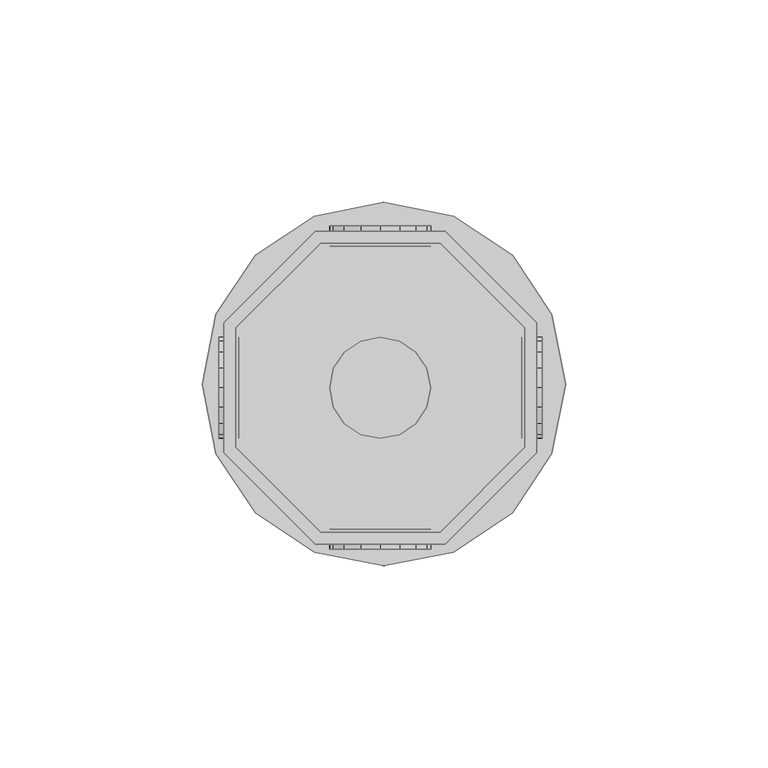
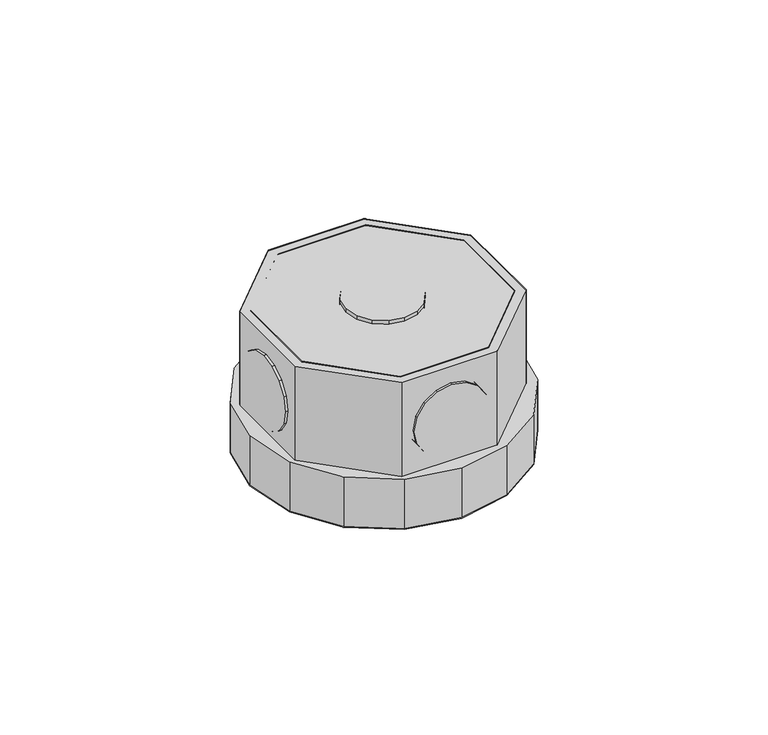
"""IFC4 building model written with IfcOpenShell, lengths in millimetres: light fixture geometry,  213408 :  213408."""

from ifc_helpers import new_model, si_unit, origin, place, context, project, spatial, triangles, source, transform, mapped, element, save


def light_fixture_6a572070(model_context):
    return source(origin(), model_context, "Body", "Tessellation", [
        triangles([(15365.3004913, 16539.5997437, 2924.5999741), (15365.3004913, 16510.0003876, 2975.400071), (15365.3004913, 16510.0003876, 2924.5999741), (15365.3004913, 16539.5997437, 2975.400071), (15439.7994324, 16540.7996704, 2924.5999741), (15439.7994324, 16508.7004669, 2975.400071), (15439.7994324, 16508.7004669, 2924.5999741), (15439.7994324, 16540.7996704, 2975.400071), (15386.3003723, 16489.0005066, 2975.400071), (15386.3003723, 16489.0005066, 2924.5999741), (15417.0996552, 16563.4994476, 2924.5999741), (15417.0996552, 16563.4994476, 2975.400071), (15415.8997284, 16489.0005066, 2975.400071), (15415.8997284, 16489.0005066, 2924.5999741), (15385.0004517, 16563.4994476, 2924.5999741), (15385.0004517, 16563.4994476, 2975.400071), (15436.7996155, 16510.0003876, 2975.400071), (15436.7996155, 16510.0003876, 2924.5999741), (15362.2995117, 16540.7996704, 2924.5999741), (15362.2995117, 16540.7996704, 2975.400071), (15436.7996155, 16539.5997437, 2924.5999741), (15436.7996155, 16539.5997437, 2975.400071), (15362.2995117, 16508.7004669, 2975.400071), (15362.2995117, 16508.7004669, 2924.5999741), (15415.8997284, 16560.4996307, 2924.5999741), (15415.8997284, 16560.4996307, 2975.400071), (15385.0004517, 16485.999527, 2975.400071), (15385.0004517, 16485.999527, 2924.5999741), (15417.0996552, 16485.999527, 2975.400071), (15386.3003723, 16560.4996307, 2975.400071), (15386.3003723, 16560.4996307, 2924.5999741), (15417.0996552, 16485.999527, 2924.5999741), (15415.8997284, 16489.0005066, 2972.3999634), (15436.7996155, 16510.0003876, 2972.3999634), (15436.7996155, 16539.5997437, 2972.3999634), (15415.8997284, 16560.4996307, 2972.3999634), (15386.3003723, 16560.4996307, 2972.3999634), (15365.3004913, 16539.5997437, 2972.3999634), (15365.3004913, 16510.0003876, 2972.3999634), (15386.3003723, 16489.0005066, 2972.3999634), (15385.0004517, 16485.999527, 2942.4000504), (15362.2995117, 16508.7004669, 2942.4000504), (15362.2995117, 16540.7996704, 2942.4000504), (15385.0004517, 16563.4994476, 2942.4000504), (15417.0996552, 16563.4994476, 2942.4000504), (15439.7994324, 16540.7996704, 2942.4000504), (15439.7994324, 16508.7004669, 2942.4000504), (15417.0996552, 16485.999527, 2942.4000504), (15443.5003693, 16508.4004852, 2942.4000504), (15419.199527, 16484.0996429, 2942.4000504), (15433.7997986, 16493.8002136, 2942.4000504), (15402.0005768, 16480.6998505, 2942.4000504), (15384.70047, 16484.0996429, 2942.4000504), (15370.1001984, 16493.8002136, 2942.4000504), (15360.3996277, 16508.4004852, 2942.4000504), (15356.9998352, 16525.6994293, 2942.4000504), (15360.3996277, 16542.8995422, 2942.4000504), (15384.70047, 16567.2003845, 2942.4000504), (15370.1001984, 16557.4998138, 2942.4000504), (15447.0001556, 16525.6994293, 2942.4000504), (15443.5003693, 16542.8995422, 2942.4000504), (15433.7997986, 16557.4998138, 2942.4000504), (15419.199527, 16567.2003845, 2942.4000504), (15402.0005768, 16570.7001709, 2942.4000504), (15419.199527, 16484.0996429, 2924.5999741), (15443.5003693, 16508.4004852, 2924.5999741), (15433.7997986, 16493.8002136, 2924.5999741), (15402.0005768, 16480.6998505, 2924.5999741), (15384.70047, 16484.0996429, 2924.5999741), (15370.1001984, 16493.8002136, 2924.5999741), (15360.3996277, 16508.4004852, 2924.5999741), (15356.9998352, 16525.6994293, 2924.5999741), (15360.3996277, 16542.8995422, 2924.5999741), (15384.70047, 16567.2003845, 2924.5999741), (15370.1001984, 16557.4998138, 2924.5999741), (15447.0001556, 16525.6994293, 2924.5999741), (15443.5003693, 16542.8995422, 2924.5999741), (15433.7997986, 16557.4998138, 2924.5999741), (15419.199527, 16567.2003845, 2924.5999741), (15402.0005768, 16570.7001709, 2924.5999741), (15361.099585, 16513.2001923, 2952.6000092), (15361.099585, 16519.9997772, 2945.9001274), (15361.099585, 16515.9000275, 2948.5999626), (15361.099585, 16512.3002472, 2957.4000069), (15361.099585, 16524.7994843, 2944.8998978), (15361.099585, 16513.2001923, 2962.2000046), (15361.099585, 16529.600354, 2945.9001274), (15361.099585, 16515.9000275, 2966.2000511), (15361.099585, 16533.6001099, 2948.5999626), (15361.099585, 16519.9997772, 2968.8998863), (15361.099585, 16536.2999451, 2952.6000092), (15361.099585, 16524.7994843, 2969.900116), (15361.099585, 16537.299884, 2957.4000069), (15361.099585, 16529.600354, 2968.8998863), (15361.099585, 16536.2999451, 2962.2000046), (15361.099585, 16533.6001099, 2966.2000511), (15366.1004425, 16519.9997772, 2945.9001274), (15366.1004425, 16513.2001923, 2952.6000092), (15366.1004425, 16515.9000275, 2948.5999626), (15366.1004425, 16524.7994843, 2944.8998978), (15366.1004425, 16512.3002472, 2957.4000069), (15366.1004425, 16529.600354, 2945.9001274), (15366.1004425, 16513.2001923, 2962.2000046), (15366.1004425, 16533.6001099, 2948.5999626), (15366.1004425, 16515.9000275, 2966.2000511), (15366.1004425, 16519.9997772, 2968.8998863), (15366.1004425, 16536.2999451, 2952.6000092), (15366.1004425, 16524.7994843, 2969.900116), (15366.1004425, 16537.299884, 2957.4000069), (15366.1004425, 16529.600354, 2968.8998863), (15366.1004425, 16536.2999451, 2962.2000046), (15366.1004425, 16533.6001099, 2966.2000511), (15436.0996582, 16513.2001923, 2952.6000092), (15436.0996582, 16519.9997772, 2945.9001274), (15436.0996582, 16515.9000275, 2948.5999626), (15436.0996582, 16512.3002472, 2957.4000069), (15436.0996582, 16524.7994843, 2944.8998978), (15436.0996582, 16513.2001923, 2962.2000046), (15436.0996582, 16529.600354, 2945.9001274), (15436.0996582, 16515.9000275, 2966.2000511), (15436.0996582, 16533.6001099, 2948.5999626), (15436.0996582, 16519.9997772, 2968.8998863), (15436.0996582, 16536.2999451, 2952.6000092), (15436.0996582, 16524.7994843, 2969.900116), (15436.0996582, 16537.299884, 2957.4000069), (15436.0996582, 16529.600354, 2968.8998863), (15436.0996582, 16536.2999451, 2962.2000046), (15436.0996582, 16533.6001099, 2966.2000511), (15441.1005157, 16519.9997772, 2945.9001274), (15441.1005157, 16513.2001923, 2952.6000092), (15441.1005157, 16515.9000275, 2948.5999626), (15441.1005157, 16524.7994843, 2944.8998978), (15441.1005157, 16512.3002472, 2957.4000069), (15441.1005157, 16529.600354, 2945.9001274), (15441.1005157, 16513.2001923, 2962.2000046), (15441.1005157, 16533.6001099, 2948.5999626), (15441.1005157, 16515.9000275, 2966.2000511), (15441.1005157, 16519.9997772, 2968.8998863), (15441.1005157, 16536.2999451, 2952.6000092), (15441.1005157, 16524.7994843, 2969.900116), (15441.1005157, 16537.299884, 2957.4000069), (15441.1005157, 16529.600354, 2968.8998863), (15441.1005157, 16536.2999451, 2962.2000046), (15441.1005157, 16533.6001099, 2966.2000511), (15405.9003387, 16489.8004578, 2945.9001274), (15412.5999298, 16489.8004578, 2952.6000092), (15409.9000946, 16489.8004578, 2948.5999626), (15401.099469, 16489.8004578, 2944.8998978), (15413.5998688, 16489.8004578, 2957.4000069), (15396.299762, 16489.8004578, 2945.9001274), (15412.5999298, 16489.8004578, 2962.2000046), (15392.2000122, 16489.8004578, 2948.5999626), (15409.9000946, 16489.8004578, 2966.2000511), (15405.9003387, 16489.8004578, 2968.8998863), (15389.500177, 16489.8004578, 2952.6000092), (15401.099469, 16489.8004578, 2969.900116), (15388.6002319, 16489.8004578, 2957.4000069), (15396.299762, 16489.8004578, 2968.8998863), (15389.500177, 16489.8004578, 2962.2000046), (15392.2000122, 16489.8004578, 2966.2000511), (15412.5999298, 16484.7996002, 2952.6000092), (15405.9003387, 16484.7996002, 2945.9001274), (15409.9000946, 16484.7996002, 2948.5999626), (15413.5998688, 16484.7996002, 2957.4000069), (15401.099469, 16484.7996002, 2944.8998978), (15412.5999298, 16484.7996002, 2962.2000046), (15396.299762, 16484.7996002, 2945.9001274), (15409.9000946, 16484.7996002, 2966.2000511), (15392.2000122, 16484.7996002, 2948.5999626), (15405.9003387, 16484.7996002, 2968.8998863), (15389.500177, 16484.7996002, 2952.6000092), (15401.099469, 16484.7996002, 2969.900116), (15388.6002319, 16484.7996002, 2957.4000069), (15396.299762, 16484.7996002, 2968.8998863), (15389.500177, 16484.7996002, 2962.2000046), (15392.2000122, 16484.7996002, 2966.2000511), (15405.9003387, 16564.800531, 2945.9001274), (15412.5999298, 16564.800531, 2952.6000092), (15409.9000946, 16564.800531, 2948.5999626), (15401.099469, 16564.800531, 2944.8998978), (15413.5998688, 16564.800531, 2957.4000069), (15396.299762, 16564.800531, 2945.9001274), (15412.5999298, 16564.800531, 2962.2000046), (15392.2000122, 16564.800531, 2948.5999626), (15409.9000946, 16564.800531, 2966.2000511), (15405.9003387, 16564.800531, 2968.8998863), (15389.500177, 16564.800531, 2952.6000092), (15401.099469, 16564.800531, 2969.900116), (15388.6002319, 16564.800531, 2957.4000069), (15396.299762, 16564.800531, 2968.8998863), (15389.500177, 16564.800531, 2962.2000046), (15392.2000122, 16564.800531, 2966.2000511), (15412.5999298, 16559.7996735, 2952.6000092), (15405.9003387, 16559.7996735, 2945.9001274), (15409.9000946, 16559.7996735, 2948.5999626), (15413.5998688, 16559.7996735, 2957.4000069), (15401.099469, 16559.7996735, 2944.8998978), (15412.5999298, 16559.7996735, 2962.2000046), (15396.299762, 16559.7996735, 2945.9001274), (15409.9000946, 16559.7996735, 2966.2000511), (15392.2000122, 16559.7996735, 2948.5999626), (15405.9003387, 16559.7996735, 2968.8998863), (15389.500177, 16559.7996735, 2952.6000092), (15401.099469, 16559.7996735, 2969.900116), (15388.6002319, 16559.7996735, 2957.4000069), (15396.299762, 16559.7996735, 2968.8998863), (15389.500177, 16559.7996735, 2962.2000046), (15392.2000122, 16559.7996735, 2966.2000511), (15412.5999298, 16519.9997772, 2976.9999733), (15405.9003387, 16513.2001923, 2976.9999733), (15409.9000946, 16515.9000275, 2976.9999733), (15401.099469, 16512.3002472, 2976.9999733), (15413.5998688, 16524.7994843, 2976.9999733), (15396.299762, 16513.2001923, 2976.9999733), (15412.5999298, 16529.600354, 2976.9999733), (15392.2000122, 16515.9000275, 2976.9999733), (15409.9000946, 16533.6001099, 2976.9999733), (15389.500177, 16519.9997772, 2976.9999733), (15405.9003387, 16536.2999451, 2976.9999733), (15388.6002319, 16524.7994843, 2976.9999733), (15401.099469, 16537.299884, 2976.9999733), (15389.500177, 16529.600354, 2976.9999733), (15396.299762, 16536.2999451, 2976.9999733), (15392.2000122, 16533.6001099, 2976.9999733), (15405.9003387, 16513.2001923, 2971.9999878), (15412.5999298, 16519.9997772, 2971.9999878), (15409.9000946, 16515.9000275, 2971.9999878), (15401.099469, 16512.3002472, 2971.9999878), (15413.5998688, 16524.7994843, 2971.9999878), (15396.299762, 16513.2001923, 2971.9999878), (15412.5999298, 16529.600354, 2971.9999878), (15392.2000122, 16515.9000275, 2971.9999878), (15409.9000946, 16533.6001099, 2971.9999878), (15389.500177, 16519.9997772, 2971.9999878), (15405.9003387, 16536.2999451, 2971.9999878), (15388.6002319, 16524.7994843, 2971.9999878), (15401.099469, 16537.299884, 2971.9999878), (15389.500177, 16529.600354, 2971.9999878), (15396.299762, 16536.2999451, 2971.9999878), (15392.2000122, 16533.6001099, 2971.9999878)], [[1, 2, 3], [2, 1, 4], [5, 6, 7], [6, 5, 8], [3, 9, 10], [9, 3, 2], [11, 8, 5], [8, 11, 12], [10, 13, 14], [13, 10, 9], [15, 12, 11], [12, 15, 16], [14, 17, 18], [17, 14, 13], [19, 16, 15], [16, 19, 20], [17, 21, 18], [21, 17, 22], [23, 19, 24], [19, 23, 20], [22, 25, 21], [25, 22, 26], [27, 24, 28], [24, 27, 23], [6, 13, 29], [29, 13, 27], [27, 13, 9], [27, 9, 23], [23, 9, 2], [23, 2, 4], [23, 4, 20], [20, 4, 30], [8, 17, 6], [6, 17, 13], [17, 8, 22], [12, 22, 8], [22, 12, 26], [30, 26, 12], [16, 30, 12], [20, 30, 16], [30, 1, 31], [1, 30, 4], [6, 32, 7], [32, 6, 29], [32, 14, 7], [28, 14, 32], [14, 28, 10], [24, 10, 28], [10, 24, 3], [1, 3, 24], [19, 1, 24], [31, 1, 19], [7, 18, 5], [14, 18, 7], [5, 18, 21], [5, 21, 11], [11, 21, 25], [11, 25, 31], [11, 31, 15], [15, 31, 19], [26, 31, 25], [31, 26, 30], [29, 28, 32], [28, 29, 27], [17, 33, 34], [33, 17, 13], [35, 17, 34], [17, 35, 22], [36, 22, 35], [22, 36, 26], [37, 26, 36], [26, 37, 30], [38, 30, 37], [30, 38, 4], [2, 38, 39], [38, 2, 4], [17, 9, 13], [9, 17, 22], [9, 22, 2], [2, 22, 26], [2, 26, 4], [4, 26, 30], [13, 40, 33], [40, 13, 9], [40, 34, 33], [35, 34, 40], [35, 40, 39], [35, 39, 36], [36, 39, 38], [36, 38, 37], [9, 39, 40], [39, 9, 2], [24, 41, 28], [41, 24, 42], [19, 42, 24], [42, 19, 43], [44, 19, 15], [19, 44, 43], [45, 15, 11], [15, 45, 44], [46, 11, 5], [11, 46, 45], [47, 5, 7], [5, 47, 46], [32, 47, 7], [47, 32, 48], [28, 48, 32], [48, 28, 41], [49, 50, 51], [48, 50, 49], [50, 48, 52], [41, 52, 48], [52, 41, 53], [53, 41, 54], [42, 54, 41], [54, 42, 55], [55, 42, 43], [55, 43, 56], [56, 43, 57], [57, 43, 44], [57, 44, 58], [57, 58, 59], [47, 49, 60], [49, 47, 48], [47, 60, 46], [61, 46, 60], [46, 61, 62], [46, 62, 45], [45, 62, 63], [44, 45, 63], [44, 63, 64], [44, 64, 58], [65, 66, 67], [66, 65, 32], [68, 32, 65], [32, 68, 28], [28, 68, 69], [70, 28, 69], [28, 70, 24], [71, 24, 70], [19, 24, 71], [19, 71, 72], [73, 19, 72], [19, 73, 15], [74, 15, 73], [74, 73, 75], [76, 66, 7], [32, 7, 66], [5, 76, 7], [76, 5, 77], [77, 5, 78], [11, 78, 5], [78, 11, 79], [79, 11, 15], [79, 15, 80], [80, 15, 74], [57, 75, 73], [75, 57, 59], [56, 73, 72], [73, 56, 57], [55, 72, 71], [72, 55, 56], [54, 71, 70], [71, 54, 55], [53, 70, 69], [70, 53, 54], [52, 69, 68], [69, 52, 53], [50, 68, 65], [68, 50, 52], [51, 65, 67], [65, 51, 50], [66, 51, 67], [51, 66, 49], [76, 49, 66], [49, 76, 60], [77, 60, 76], [60, 77, 61], [78, 61, 77], [61, 78, 62], [79, 62, 78], [62, 79, 63], [80, 63, 79], [63, 80, 64], [75, 58, 74], [58, 75, 59], [74, 64, 80], [64, 74, 58], [81, 82, 83], [82, 81, 84], [85, 82, 84], [85, 84, 86], [87, 85, 86], [87, 86, 88], [87, 88, 89], [89, 88, 90], [89, 90, 91], [91, 90, 92], [91, 92, 93], [93, 92, 94], [93, 94, 95], [95, 94, 96], [97, 98, 99], [98, 97, 100], [101, 98, 100], [101, 100, 102], [103, 101, 102], [103, 102, 104], [103, 104, 105], [105, 104, 106], [106, 104, 107], [106, 107, 108], [108, 107, 109], [108, 109, 110], [110, 109, 111], [110, 111, 112], [87, 104, 102], [104, 87, 89], [85, 102, 100], [102, 85, 87], [82, 100, 97], [100, 82, 85], [83, 97, 99], [97, 83, 82], [98, 83, 99], [83, 98, 81], [101, 81, 98], [81, 101, 84], [103, 84, 101], [84, 103, 86], [105, 86, 103], [86, 105, 88], [106, 88, 105], [88, 106, 90], [108, 90, 106], [90, 108, 92], [110, 92, 108], [92, 110, 94], [112, 94, 110], [94, 112, 96], [95, 112, 111], [112, 95, 96], [93, 111, 109], [111, 93, 95], [89, 107, 104], [107, 89, 91], [91, 109, 107], [109, 91, 93], [113, 114, 115], [114, 113, 116], [117, 114, 116], [117, 116, 118], [119, 117, 118], [119, 118, 120], [119, 120, 121], [121, 120, 122], [121, 122, 123], [123, 122, 124], [123, 124, 125], [125, 124, 126], [125, 126, 127], [127, 126, 128], [129, 130, 131], [130, 129, 132], [133, 130, 132], [133, 132, 134], [135, 133, 134], [135, 134, 136], [135, 136, 137], [137, 136, 138], [138, 136, 139], [138, 139, 140], [140, 139, 141], [140, 141, 142], [142, 141, 143], [142, 143, 144], [119, 136, 134], [136, 119, 121], [117, 134, 132], [134, 117, 119], [114, 132, 129], [132, 114, 117], [115, 129, 131], [129, 115, 114], [130, 115, 131], [115, 130, 113], [133, 113, 130], [113, 133, 116], [135, 116, 133], [116, 135, 118], [137, 118, 135], [118, 137, 120], [138, 120, 137], [120, 138, 122], [140, 122, 138], [122, 140, 124], [142, 124, 140], [124, 142, 126], [144, 126, 142], [126, 144, 128], [127, 144, 143], [144, 127, 128], [125, 143, 141], [143, 125, 127], [121, 139, 136], [139, 121, 123], [123, 141, 139], [141, 123, 125], [145, 146, 147], [146, 145, 148], [149, 146, 148], [149, 148, 150], [151, 149, 150], [151, 150, 152], [151, 152, 153], [153, 152, 154], [154, 152, 155], [154, 155, 156], [156, 155, 157], [156, 157, 158], [158, 157, 159], [158, 159, 160], [161, 162, 163], [162, 161, 164], [165, 162, 164], [165, 164, 166], [167, 165, 166], [167, 166, 168], [169, 167, 168], [169, 168, 170], [169, 170, 171], [171, 170, 172], [171, 172, 173], [173, 172, 174], [173, 174, 175], [175, 174, 176], [158, 176, 174], [176, 158, 160], [156, 174, 172], [174, 156, 158], [154, 172, 170], [172, 154, 156], [153, 170, 168], [170, 153, 154], [151, 168, 166], [168, 151, 153], [149, 166, 164], [166, 149, 151], [146, 164, 161], [164, 146, 149], [147, 161, 163], [161, 147, 146], [162, 147, 163], [147, 162, 145], [165, 145, 162], [145, 165, 148], [167, 148, 165], [148, 167, 150], [169, 150, 167], [150, 169, 152], [171, 152, 169], [152, 171, 155], [173, 155, 171], [155, 173, 157], [176, 159, 175], [159, 176, 160], [175, 157, 173], [157, 175, 159], [177, 178, 179], [178, 177, 180], [181, 178, 180], [181, 180, 182], [183, 181, 182], [183, 182, 184], [183, 184, 185], [185, 184, 186], [186, 184, 187], [186, 187, 188], [188, 187, 189], [188, 189, 190], [190, 189, 191], [190, 191, 192], [193, 194, 195], [194, 193, 196], [197, 194, 196], [197, 196, 198], [199, 197, 198], [199, 198, 200], [201, 199, 200], [201, 200, 202], [201, 202, 203], [203, 202, 204], [203, 204, 205], [205, 204, 206], [205, 206, 207], [207, 206, 208], [190, 208, 206], [208, 190, 192], [188, 206, 204], [206, 188, 190], [186, 204, 202], [204, 186, 188], [185, 202, 200], [202, 185, 186], [183, 200, 198], [200, 183, 185], [181, 198, 196], [198, 181, 183], [178, 196, 193], [196, 178, 181], [179, 193, 195], [193, 179, 178], [194, 179, 195], [179, 194, 177], [197, 177, 194], [177, 197, 180], [199, 180, 197], [180, 199, 182], [201, 182, 199], [182, 201, 184], [203, 184, 201], [184, 203, 187], [205, 187, 203], [187, 205, 189], [208, 191, 207], [191, 208, 192], [207, 189, 205], [189, 207, 191], [209, 210, 211], [212, 210, 209], [212, 209, 213], [214, 212, 213], [214, 213, 215], [216, 214, 215], [216, 215, 217], [216, 217, 218], [218, 217, 219], [218, 219, 220], [220, 219, 221], [220, 221, 222], [222, 221, 223], [222, 223, 224], [225, 226, 227], [226, 225, 228], [229, 226, 228], [229, 228, 230], [231, 229, 230], [231, 230, 232], [231, 232, 233], [233, 232, 234], [233, 234, 235], [235, 234, 236], [235, 236, 237], [237, 236, 238], [237, 238, 239], [239, 238, 240], [222, 240, 238], [240, 222, 224], [220, 238, 236], [238, 220, 222], [218, 236, 234], [236, 218, 220], [216, 234, 232], [234, 216, 218], [214, 232, 230], [232, 214, 216], [212, 230, 228], [230, 212, 214], [210, 228, 225], [228, 210, 212], [211, 225, 227], [225, 211, 210], [226, 211, 227], [211, 226, 209], [229, 209, 226], [209, 229, 213], [231, 213, 229], [213, 231, 215], [233, 215, 231], [215, 233, 217], [235, 217, 233], [217, 235, 219], [237, 219, 235], [219, 237, 221], [240, 223, 239], [223, 240, 224], [239, 221, 237], [221, 239, 223]], closed=False),
    ])


if __name__ == "__main__":
    model = new_model("IFC4")
    model_context = context("Model", 3, world=origin())
    ifc_project = project(units=[si_unit("LENGTHUNIT", "METRE", prefix="MILLI")], contexts=[model_context])
    site = spatial("IfcSite", under=ifc_project)
    building = spatial("IfcBuilding", under=site)
    placement = place(None, origin())
    light_fixture_shape = light_fixture_6a572070(model_context)
    element("IfcLightFixture", 1, ObjectType=" 213408 :  213408", at=placement, inside=building, context=model_context, shape_type="MappedRepresentation", body=[
        mapped(light_fixture_shape, transform((0.0, 0.0, 0.0), x_axis=(1.0, 0.0, 0.0), y_axis=(0.0, 1.0, 0.0), z_axis=(0.0, 0.0, 1.0))),
    ])
    save(model, "model.ifc")
